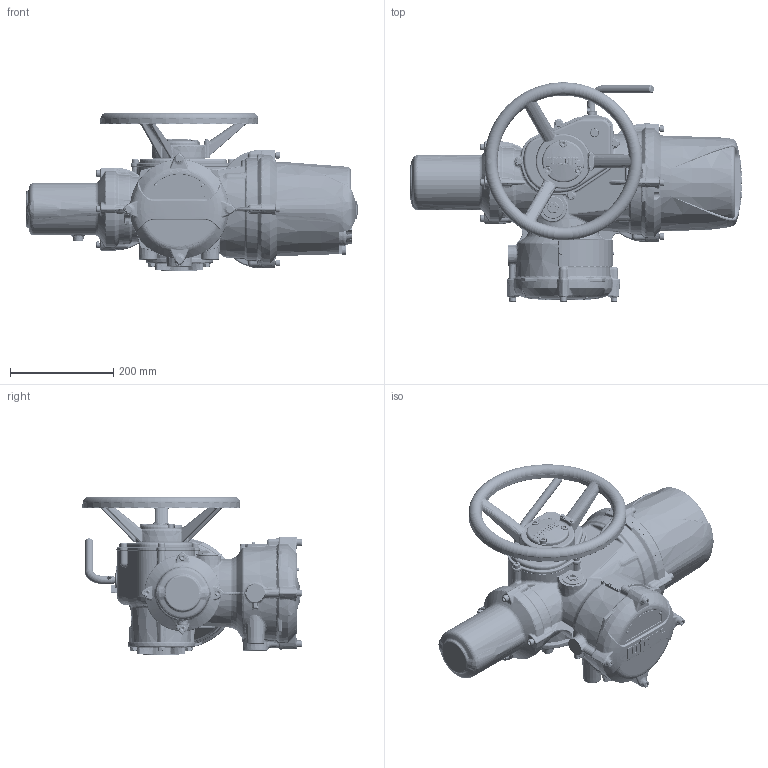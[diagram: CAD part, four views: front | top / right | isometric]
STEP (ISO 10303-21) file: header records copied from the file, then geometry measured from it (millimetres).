
FILE_DESCRIPTION(/* description */ ('Unknown'),/* implementation_level */ '2;1');
FILE_NAME(/* name */ 'IQ10_THW_SHORT-ECVR_B3B4',/* time_stamp */ '2016-02-29T11:34:43+00:00',/* author */ ('Unknown'),/* organization */ ('Unknown'),/* preprocessor_version */ 'ST-DEVELOPER v16',/* originating_system */ 'DEX',/* authorisation */ $);
FILE_SCHEMA (('AUTOMOTIVE_DESIGN {1 0 10303 214 3 1 1}'));
Length unit declared in the file: millimetre
Products named in the file (8): IQ10_THW_SHORT-ECVR_B3B4; II1-01-std; II1-04THW-std; II1-02B3B4_F10-std; II0-20SHORT-std; II0-55-std; II1-04CAP-std; II1-05-std
Assembly tree (7 placements, depth 2):
  IQ10_THW_SHORT-ECVR_B3B4
    II1-01-std
    II1-04THW-std
    II1-02B3B4_F10-std
    II0-20SHORT-std
    II0-55-std
    II1-04CAP-std
    II1-05-std
Bounding box: 641.76 x 423.78 x 306.27 mm (x, y, z)
Volume: 13731598.7 mm3; surface area: 1044979.3 mm2
Topology: 27 solids, 35 shells, 5214 faces, 12888 edges, 7634 vertices
Faces by surface type: bspline 2041, plane 1288, cylinder 732, torus 559, cone 515, sphere 79
Full cylindrical faces by diameter (mm): 1.152 x1, 3 x12, 4 x2, 4.917 x1, 6 x7, 6.45 x9, 6.47 x9, 6.5 x1, 6.647 x2, 7 x4, 7.6 x4, 8 x26, 8.1 x1, 8.2 x1, 8.5 x8, 10 x1, 11.78 x1, 13 x20, 13.25 x4, 15.5 x1, 16 x4, 16.186 x1, 24.78 x1, 45 x1, 52 x1, 69.95 x1, 86 x1, 91.9 x1, 94 x1, 97.3 x2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
Entity records: 289966 total; most frequent: CARTESIAN_POINT 151446, ORIENTED_EDGE 24146, DIRECTION 17698, EDGE_CURVE 12073, AXIS2_PLACEMENT_3D 7592, VERTEX_POINT 7408, FACE_BOUND 5769, EDGE_LOOP 5744
